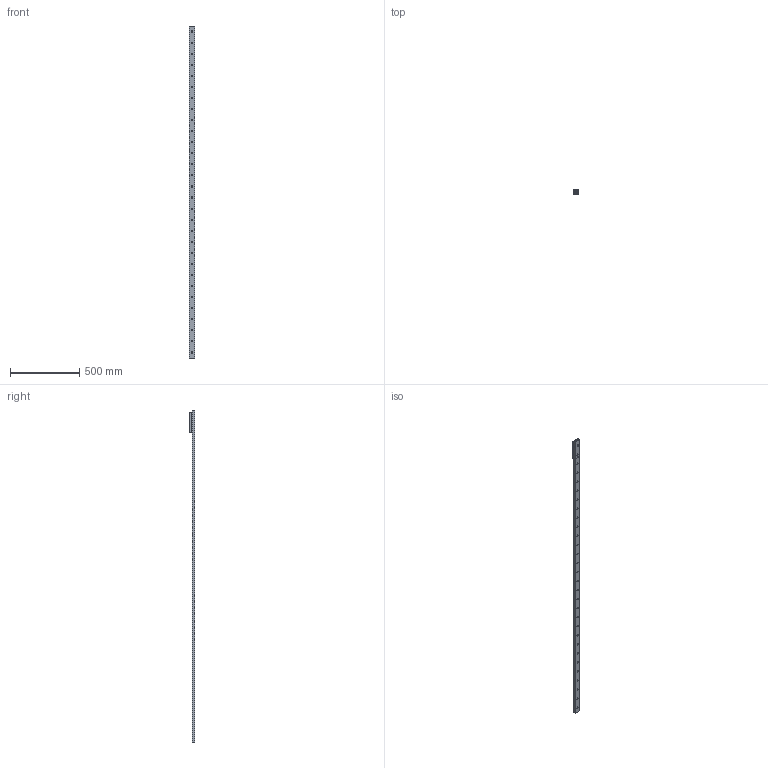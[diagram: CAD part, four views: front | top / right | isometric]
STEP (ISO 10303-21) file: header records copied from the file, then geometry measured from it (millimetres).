
FILE_DESCRIPTION( ( 'STEP AP214' ), '1' );
FILE_NAME( 'p:/temp/worker_15/temp/exporttempdir_3956_214_7QUFz/format_2/TGV-02400_1_RV43G-3.stp', '2021-05-14T19:18:28', ( 'License CC BY-ND 4.0' ), ( 'CADENAS' ), ' ', 'PARTsolutions', ' ' );
FILE_SCHEMA( ( 'AUTOMOTIVE_DESIGN { 1 0 10303 214 1 1 1 1 }' ) );
Length unit declared in the file: millimetre
Products named in the file (6): TGV-02400/1/RV43G-3; _TGV43-2400-(3-1); _RVG43-3-slider; _RGNV43R; _RGAV43R; _WR43G-01
Assembly tree (7 placements, depth 2):
  TGV-02400/1/RV43G-3
    _TGV43-2400-(3-1)
    _RVG43-3-slider
    _RGNV43R  x2
    _RGAV43R
    _WR43G-01  x2
Bounding box: 43 x 37 x 2400 mm (x, y, z)
Volume: 999491.6 mm3; surface area: 402345.8 mm2
Topology: 7 solids, 7 shells, 1101 faces, 2874 edges, 1869 vertices
Faces by surface type: plane 663, cylinder 326, cone 69, bspline 34, torus 9
Full cylindrical faces by diameter (mm): 1.76 x4, 3 x8, 6 x4, 6.647 x4, 6.8 x3, 8 x3, 8.5 x30, 11 x11, 15 x6, 15.5 x1, 18.98 x2, 19 x1, 31.4 x6
Entity records: 26593 total; most frequent: CARTESIAN_POINT 4166, DIRECTION 3567, ORIENTED_EDGE 3244, EDGE_CURVE 1622, AXIS2_PLACEMENT_3D 1380, VERTEX_POINT 1141, EDGE_LOOP 977, LINE 807
